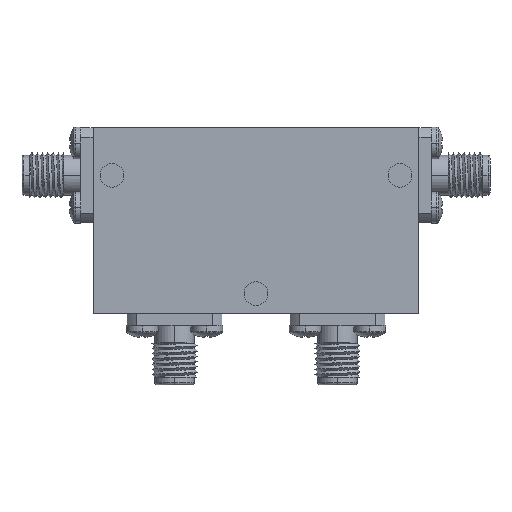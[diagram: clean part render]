
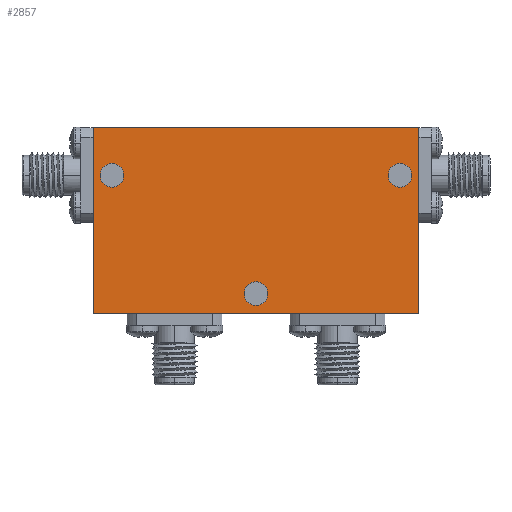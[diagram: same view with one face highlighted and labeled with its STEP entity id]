
A CAD part, top view. The second image highlights one B-rep face of the part: STEP entity #2857.
In plain terms, the highlighted planar face has unit normal (0, 0, 1).
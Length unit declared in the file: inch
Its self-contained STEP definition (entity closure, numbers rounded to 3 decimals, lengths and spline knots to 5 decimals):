
#24 = CARTESIAN_POINT ( 'NONE',  ( -0.0625, -0.385, 0.25 ) ) ;
#34 = VERTEX_POINT ( 'NONE', #3637 ) ;
#53 = EDGE_LOOP ( 'NONE', ( #1023, #3460 ) ) ;
#128 = DIRECTION ( 'NONE',  ( 0., 0., 1. ) ) ;
#148 = EDGE_LOOP ( 'NONE', ( #1927, #478, #2250, #2881 ) ) ;
#211 = AXIS2_PLACEMENT_3D ( 'NONE', #3677, #128, #425 ) ;
#225 = VECTOR ( 'NONE', #3212, 39.37008 ) ;
#286 = VERTEX_POINT ( 'NONE', #814 ) ;
#323 = EDGE_CURVE ( 'NONE', #817, #286, #3331, .T. ) ;
#425 = DIRECTION ( 'NONE',  ( 1., 0., 0. ) ) ;
#455 = EDGE_CURVE ( 'NONE', #3830, #1099, #1650, .T. ) ;
#464 = CARTESIAN_POINT ( 'NONE',  ( 0.86, 0.49, 0.25 ) ) ;
#478 = ORIENTED_EDGE ( 'NONE', *, *, #1672, .T. ) ;
#596 = EDGE_CURVE ( 'NONE', #2573, #2549, #955, .T. ) ;
#646 = VERTEX_POINT ( 'NONE', #3156 ) ;
#686 = FACE_BOUND ( 'NONE', #53, .T. ) ;
#774 = AXIS2_PLACEMENT_3D ( 'NONE', #1668, #1428, #3787 ) ;
#784 = LINE ( 'NONE', #2859, #1420 ) ;
#790 = CIRCLE ( 'NONE', #774, 0.0625 ) ;
#814 = CARTESIAN_POINT ( 'NONE',  ( 0.0625, -0.385, 0.25 ) ) ;
#816 = DIRECTION ( 'NONE',  ( -1., 0., 0. ) ) ;
#817 = VERTEX_POINT ( 'NONE', #24 ) ;
#889 = CARTESIAN_POINT ( 'NONE',  ( 0., -0.385, 0.25 ) ) ;
#955 = CIRCLE ( 'NONE', #211, 0.0625 ) ;
#1023 = ORIENTED_EDGE ( 'NONE', *, *, #2402, .F. ) ;
#1060 = EDGE_CURVE ( 'NONE', #34, #1930, #2286, .T. ) ;
#1099 = VERTEX_POINT ( 'NONE', #2931 ) ;
#1110 = DIRECTION ( 'NONE',  ( 0., 0., 1. ) ) ;
#1114 = DIRECTION ( 'NONE',  ( 0., 0., 1. ) ) ;
#1192 = ORIENTED_EDGE ( 'NONE', *, *, #1688, .F. ) ;
#1210 = CARTESIAN_POINT ( 'NONE',  ( -0.8225, 0.24, 0.25 ) ) ;
#1220 = DIRECTION ( 'NONE',  ( 1., 0., 0. ) ) ;
#1335 = LINE ( 'NONE', #3478, #3053 ) ;
#1340 = AXIS2_PLACEMENT_3D ( 'NONE', #889, #2729, #1220 ) ;
#1363 = DIRECTION ( 'NONE',  ( 1., 0., 0. ) ) ;
#1381 = DIRECTION ( 'NONE',  ( 1., 0., 0. ) ) ;
#1420 = VECTOR ( 'NONE', #1363, 39.37008 ) ;
#1428 = DIRECTION ( 'NONE',  ( 0., 0., 1. ) ) ;
#1459 = DIRECTION ( 'NONE',  ( 1., 0., 0. ) ) ;
#1524 = EDGE_LOOP ( 'NONE', ( #3524, #2918 ) ) ;
#1650 = LINE ( 'NONE', #464, #2910 ) ;
#1668 = CARTESIAN_POINT ( 'NONE',  ( 0.76, 0.24, 0.25 ) ) ;
#1672 = EDGE_CURVE ( 'NONE', #1099, #34, #1335, .T. ) ;
#1688 = EDGE_CURVE ( 'NONE', #646, #2645, #790, .T. ) ;
#1722 = DIRECTION ( 'NONE',  ( 0., 0., 1. ) ) ;
#1927 = ORIENTED_EDGE ( 'NONE', *, *, #455, .T. ) ;
#1930 = VERTEX_POINT ( 'NONE', #3400 ) ;
#1948 = AXIS2_PLACEMENT_3D ( 'NONE', #3499, #3208, #2566 ) ;
#1958 = FACE_BOUND ( 'NONE', #1524, .T. ) ;
#1961 = CIRCLE ( 'NONE', #1340, 0.0625 ) ;
#2250 = ORIENTED_EDGE ( 'NONE', *, *, #1060, .T. ) ;
#2286 = LINE ( 'NONE', #2599, #225 ) ;
#2306 = CARTESIAN_POINT ( 'NONE',  ( 0.76, 0.24, 0.25 ) ) ;
#2384 = CARTESIAN_POINT ( 'NONE',  ( 0.6975, 0.24, 0.25 ) ) ;
#2402 = EDGE_CURVE ( 'NONE', #286, #817, #1961, .T. ) ;
#2549 = VERTEX_POINT ( 'NONE', #3012 ) ;
#2556 = AXIS2_PLACEMENT_3D ( 'NONE', #2873, #1114, #3778 ) ;
#2566 = DIRECTION ( 'NONE',  ( 1., 0., 0. ) ) ;
#2573 = VERTEX_POINT ( 'NONE', #1210 ) ;
#2599 = CARTESIAN_POINT ( 'NONE',  ( -0.86, 0.49, 0.25 ) ) ;
#2645 = VERTEX_POINT ( 'NONE', #2384 ) ;
#2666 = EDGE_CURVE ( 'NONE', #1930, #3830, #784, .T. ) ;
#2729 = DIRECTION ( 'NONE',  ( 0., 0., 1. ) ) ;
#2788 = DIRECTION ( 'NONE',  ( 0., 1., 0. ) ) ;
#2827 = AXIS2_PLACEMENT_3D ( 'NONE', #3831, #1722, #1459 ) ;
#2832 = AXIS2_PLACEMENT_3D ( 'NONE', #2306, #1110, #1381 ) ;
#2857 = ADVANCED_FACE ( 'NONE', ( #3520, #686, #1958, #3760 ), #2897, .T. ) ;
#2859 = CARTESIAN_POINT ( 'NONE',  ( -0.86, -0.49, 0.25 ) ) ;
#2873 = CARTESIAN_POINT ( 'NONE',  ( -0.76, 0.24, 0.25 ) ) ;
#2881 = ORIENTED_EDGE ( 'NONE', *, *, #2666, .T. ) ;
#2892 = EDGE_CURVE ( 'NONE', #2549, #2573, #3476, .T. ) ;
#2897 = PLANE ( 'NONE',  #1948 ) ;
#2910 = VECTOR ( 'NONE', #2788, 39.37008 ) ;
#2918 = ORIENTED_EDGE ( 'NONE', *, *, #596, .F. ) ;
#2931 = CARTESIAN_POINT ( 'NONE',  ( 0.86, 0.49, 0.25 ) ) ;
#2955 = CARTESIAN_POINT ( 'NONE',  ( 0.86, -0.49, 0.25 ) ) ;
#3012 = CARTESIAN_POINT ( 'NONE',  ( -0.6975, 0.24, 0.25 ) ) ;
#3053 = VECTOR ( 'NONE', #816, 39.37008 ) ;
#3156 = CARTESIAN_POINT ( 'NONE',  ( 0.8225, 0.24, 0.25 ) ) ;
#3208 = DIRECTION ( 'NONE',  ( 0., 0., 1. ) ) ;
#3212 = DIRECTION ( 'NONE',  ( 0., -1., 0. ) ) ;
#3331 = CIRCLE ( 'NONE', #2827, 0.0625 ) ;
#3347 = EDGE_LOOP ( 'NONE', ( #1192, #3660 ) ) ;
#3400 = CARTESIAN_POINT ( 'NONE',  ( -0.86, -0.49, 0.25 ) ) ;
#3412 = EDGE_CURVE ( 'NONE', #2645, #646, #3427, .T. ) ;
#3427 = CIRCLE ( 'NONE', #2832, 0.0625 ) ;
#3460 = ORIENTED_EDGE ( 'NONE', *, *, #323, .F. ) ;
#3476 = CIRCLE ( 'NONE', #2556, 0.0625 ) ;
#3478 = CARTESIAN_POINT ( 'NONE',  ( -0.86, 0.49, 0.25 ) ) ;
#3499 = CARTESIAN_POINT ( 'NONE',  ( 0., 0., 0.25 ) ) ;
#3520 = FACE_BOUND ( 'NONE', #3347, .T. ) ;
#3524 = ORIENTED_EDGE ( 'NONE', *, *, #2892, .F. ) ;
#3637 = CARTESIAN_POINT ( 'NONE',  ( -0.86, 0.49, 0.25 ) ) ;
#3660 = ORIENTED_EDGE ( 'NONE', *, *, #3412, .F. ) ;
#3677 = CARTESIAN_POINT ( 'NONE',  ( -0.76, 0.24, 0.25 ) ) ;
#3760 = FACE_OUTER_BOUND ( 'NONE', #148, .T. ) ;
#3778 = DIRECTION ( 'NONE',  ( 1., 0., 0. ) ) ;
#3787 = DIRECTION ( 'NONE',  ( 1., 0., 0. ) ) ;
#3830 = VERTEX_POINT ( 'NONE', #2955 ) ;
#3831 = CARTESIAN_POINT ( 'NONE',  ( 0., -0.385, 0.25 ) ) ;
